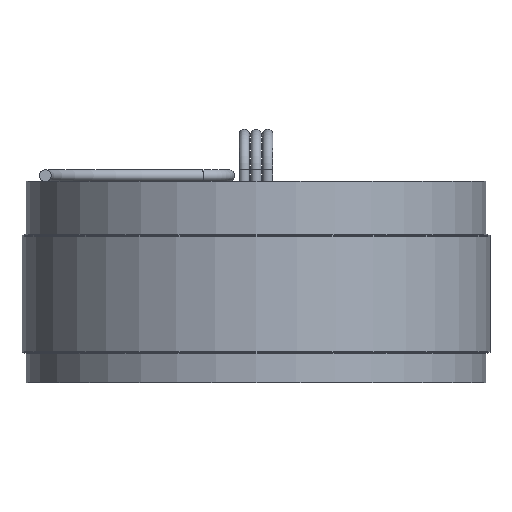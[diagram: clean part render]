
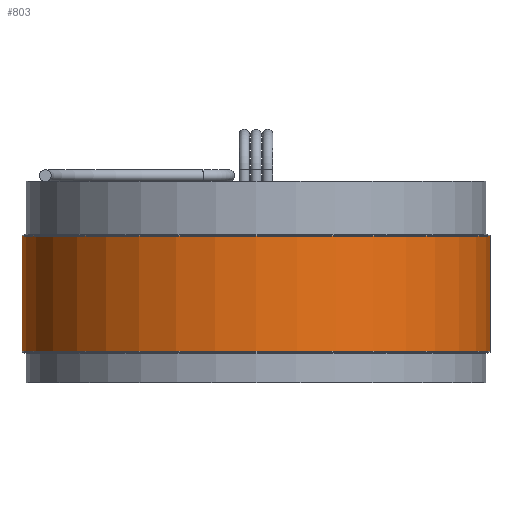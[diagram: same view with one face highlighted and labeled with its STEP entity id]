
A CAD part, front view. The second image highlights one B-rep face of the part: STEP entity #803.
In plain terms, the highlighted cylindrical face has radius 50.8 mm (diameter 101.6 mm), a full revolution.
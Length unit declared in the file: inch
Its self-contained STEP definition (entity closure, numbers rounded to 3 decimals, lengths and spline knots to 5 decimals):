
#43 = CARTESIAN_POINT ( 'NONE',  ( 0., 0., -0.51 ) ) ;
#79 = EDGE_CURVE ( 'NONE', #103, #103, #1276, .T. ) ;
#103 = VERTEX_POINT ( 'NONE', #374 ) ;
#136 = DIRECTION ( 'NONE',  ( 0., 0., 1. ) ) ;
#356 = CARTESIAN_POINT ( 'NONE',  ( 2., 0., 0.49213 ) ) ;
#374 = CARTESIAN_POINT ( 'NONE',  ( 2., 0., -0.49213 ) ) ;
#409 = AXIS2_PLACEMENT_3D ( 'NONE', #43, #136, #937 ) ;
#507 = DIRECTION ( 'NONE',  ( 1., 0., 0. ) ) ;
#569 = AXIS2_PLACEMENT_3D ( 'NONE', #1298, #1084, #866 ) ;
#702 = EDGE_CURVE ( 'NONE', #725, #725, #1288, .T. ) ;
#712 = DIRECTION ( 'NONE',  ( 0., 0., 1. ) ) ;
#725 = VERTEX_POINT ( 'NONE', #356 ) ;
#803 = ADVANCED_FACE ( 'NONE', ( #1337, #1041 ), #1373, .T. ) ;
#866 = DIRECTION ( 'NONE',  ( 1., 0., 0. ) ) ;
#918 = AXIS2_PLACEMENT_3D ( 'NONE', #1249, #712, #507 ) ;
#937 = DIRECTION ( 'NONE',  ( 1., 0., 0. ) ) ;
#982 = ORIENTED_EDGE ( 'NONE', *, *, #702, .F. ) ;
#1041 = FACE_OUTER_BOUND ( 'NONE', #1131, .T. ) ;
#1084 = DIRECTION ( 'NONE',  ( 0., 0., 1. ) ) ;
#1103 = ORIENTED_EDGE ( 'NONE', *, *, #79, .T. ) ;
#1131 = EDGE_LOOP ( 'NONE', ( #1103 ) ) ;
#1249 = CARTESIAN_POINT ( 'NONE',  ( 0., 0., 0.49213 ) ) ;
#1252 = EDGE_LOOP ( 'NONE', ( #982 ) ) ;
#1276 = CIRCLE ( 'NONE', #569, 2. ) ;
#1288 = CIRCLE ( 'NONE', #918, 2. ) ;
#1298 = CARTESIAN_POINT ( 'NONE',  ( 0., 0., -0.49213 ) ) ;
#1337 = FACE_OUTER_BOUND ( 'NONE', #1252, .T. ) ;
#1373 = CYLINDRICAL_SURFACE ( 'NONE', #409, 2. ) ;
